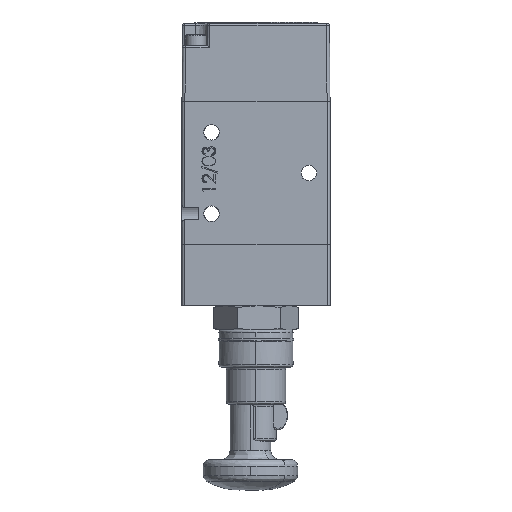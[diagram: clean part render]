
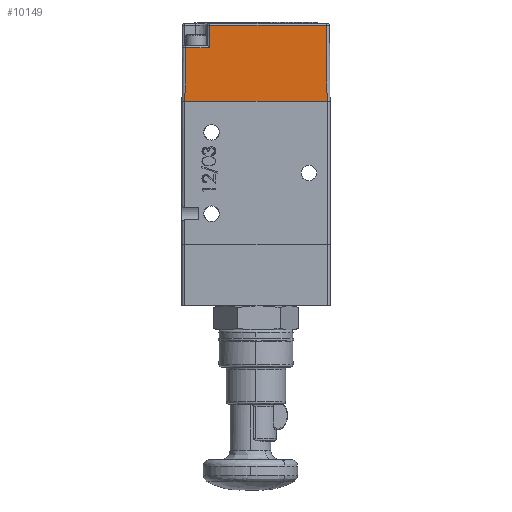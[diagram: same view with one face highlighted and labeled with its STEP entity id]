
A CAD part, left-side view. The second image highlights one B-rep face of the part: STEP entity #10149.
In plain terms, the highlighted planar face has unit normal (-1, 0, 0.009).
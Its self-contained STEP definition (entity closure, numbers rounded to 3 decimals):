
#2191 = DIRECTION ( 'NONE',  ( -0.009, -0.009, -1. ) ) ;
#3859 = CARTESIAN_POINT ( 'NONE',  ( 21.513, 53.107, 53.262 ) ) ;
#5830 = VECTOR ( 'NONE', #12635, 1000. ) ;
#7926 = DIRECTION ( 'NONE',  ( 0.009, -0.009, 1. ) ) ;
#8364 = CARTESIAN_POINT ( 'NONE',  ( 21.691, 53.907, 73.766 ) ) ;
#8638 = CARTESIAN_POINT ( 'NONE',  ( 21.513, 53.107, 53.262 ) ) ;
#9083 = CARTESIAN_POINT ( 'NONE',  ( 21.639, 53.907, 67.766 ) ) ;
#9230 = ORIENTED_EDGE ( 'NONE', *, *, #22073, .F. ) ;
#9309 = LINE ( 'NONE', #22034, #41694 ) ;
#10149 = ADVANCED_FACE ( 'NONE', ( #15541 ), #52347, .F. ) ;
#10342 = CARTESIAN_POINT ( 'NONE',  ( 21.691, 14.885, 73.766 ) ) ;
#10589 = LINE ( 'NONE', #31711, #21874 ) ;
#12635 = DIRECTION ( 'NONE',  ( 0., -1., 0. ) ) ;
#12638 = CARTESIAN_POINT ( 'NONE',  ( 21.513, 53.907, 53.262 ) ) ;
#14087 = ORIENTED_EDGE ( 'NONE', *, *, #37580, .F. ) ;
#14218 = VERTEX_POINT ( 'NONE', #15201 ) ;
#14676 = LINE ( 'NONE', #9083, #37166 ) ;
#15201 = CARTESIAN_POINT ( 'NONE',  ( 21.639, 46.515, 67.766 ) ) ;
#15541 = FACE_OUTER_BOUND ( 'NONE', #50180, .T. ) ;
#17079 = ORIENTED_EDGE ( 'NONE', *, *, #49781, .F. ) ;
#17850 = VERTEX_POINT ( 'NONE', #8638 ) ;
#18395 = LINE ( 'NONE', #8364, #5830 ) ;
#20824 = CARTESIAN_POINT ( 'NONE',  ( 21.513, 14.706, 53.262 ) ) ;
#21308 = LINE ( 'NONE', #3859, #43752 ) ;
#21396 = ORIENTED_EDGE ( 'NONE', *, *, #50566, .F. ) ;
#21874 = VECTOR ( 'NONE', #2191, 1000. ) ;
#22034 = CARTESIAN_POINT ( 'NONE',  ( 21.639, 46.515, 67.766 ) ) ;
#22073 = EDGE_CURVE ( 'NONE', #17850, #47564, #21308, .T. ) ;
#22859 = CARTESIAN_POINT ( 'NONE',  ( 21.691, 46.41, 73.766 ) ) ;
#23202 = DIRECTION ( 'NONE',  ( 1., 0., -0.009 ) ) ;
#26582 = EDGE_CURVE ( 'NONE', #36408, #17850, #48861, .T. ) ;
#31711 = CARTESIAN_POINT ( 'NONE',  ( 21.691, 14.885, 73.766 ) ) ;
#32593 = EDGE_CURVE ( 'NONE', #42015, #41430, #18395, .T. ) ;
#36408 = VERTEX_POINT ( 'NONE', #20824 ) ;
#37166 = VECTOR ( 'NONE', #38649, 1000. ) ;
#37580 = EDGE_CURVE ( 'NONE', #14218, #42015, #9309, .T. ) ;
#37617 = VECTOR ( 'NONE', #37955, 1000. ) ;
#37955 = DIRECTION ( 'NONE',  ( 0., 1., 0. ) ) ;
#38649 = DIRECTION ( 'NONE',  ( 0., -1., 0. ) ) ;
#40720 = CARTESIAN_POINT ( 'NONE',  ( 21.639, 52.98, 67.766 ) ) ;
#41288 = ORIENTED_EDGE ( 'NONE', *, *, #32593, .F. ) ;
#41430 = VERTEX_POINT ( 'NONE', #10342 ) ;
#41694 = VECTOR ( 'NONE', #51542, 1000. ) ;
#42015 = VERTEX_POINT ( 'NONE', #22859 ) ;
#43752 = VECTOR ( 'NONE', #7926, 1000. ) ;
#46007 = AXIS2_PLACEMENT_3D ( 'NONE', #48487, #23202, #52714 ) ;
#47564 = VERTEX_POINT ( 'NONE', #40720 ) ;
#48487 = CARTESIAN_POINT ( 'NONE',  ( 21.513, 53.907, 53.262 ) ) ;
#48861 = LINE ( 'NONE', #12638, #37617 ) ;
#49781 = EDGE_CURVE ( 'NONE', #47564, #14218, #14676, .T. ) ;
#50180 = EDGE_LOOP ( 'NONE', ( #21396, #41288, #14087, #17079, #9230, #50368 ) ) ;
#50368 = ORIENTED_EDGE ( 'NONE', *, *, #26582, .F. ) ;
#50566 = EDGE_CURVE ( 'NONE', #41430, #36408, #10589, .T. ) ;
#51542 = DIRECTION ( 'NONE',  ( 0.009, -0.017, 1. ) ) ;
#52347 = PLANE ( 'NONE',  #46007 ) ;
#52714 = DIRECTION ( 'NONE',  ( -0.009, 0., -1. ) ) ;
